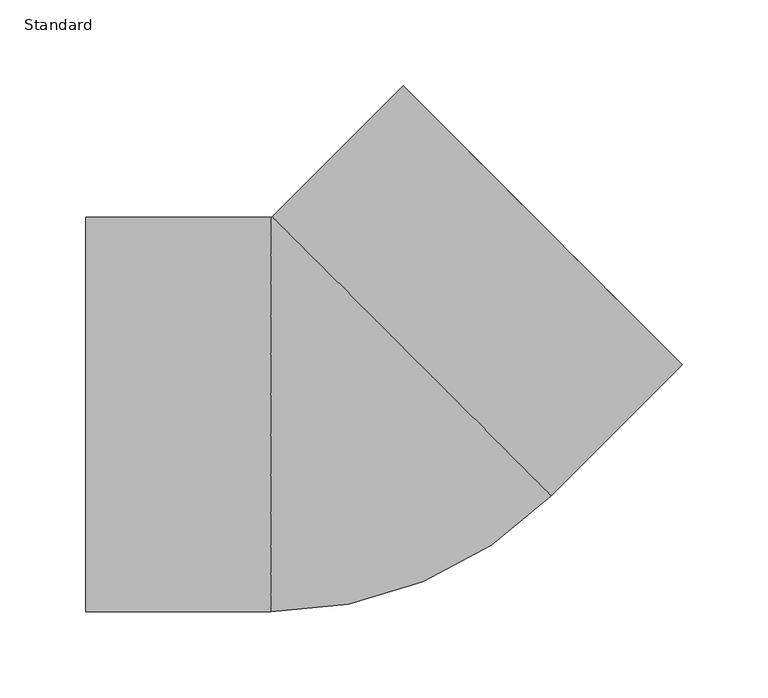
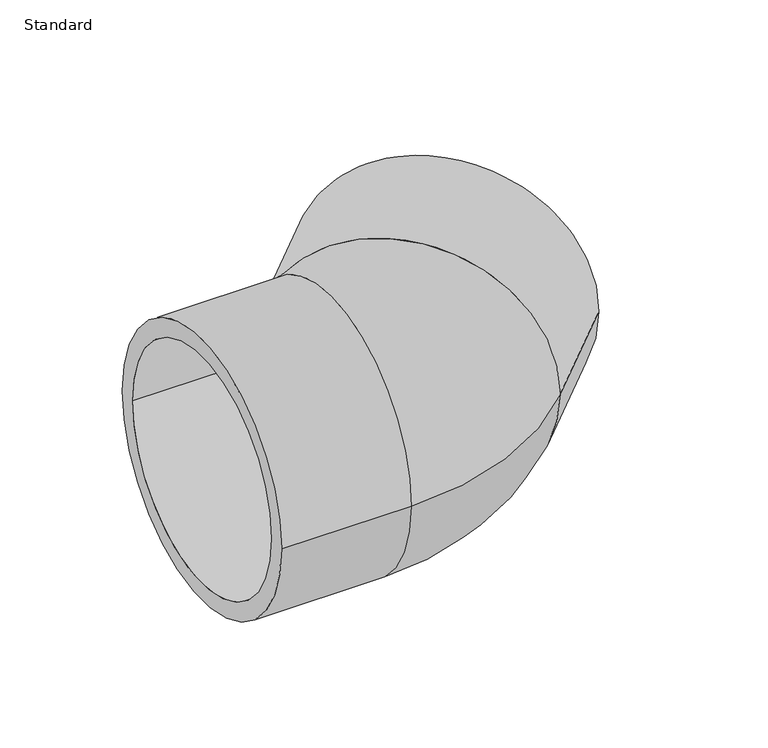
"""IFC4 building model written with IfcOpenShell, lengths in millimetres: pipe fitting geometry, Durapipe_PipeFitting_PVC_Elbow45deg : Standard."""

import ifcopenshell
import ifcopenshell.guid

model = None  # the IFC model being written
_history = None  # IfcOwnerHistory: only IFC2X3 demands one
_inside = {}  # id of a spatial element -> (the spatial element, [elements in it])
_under = {}  # id of a project, library or spatial element -> (it, [spatial elements below it])
_declared = {}  # id of a project -> (the project, [libraries it declares])
_typed = {}  # id of a type object -> (the type object, [elements of that type])
_made_of = {}  # id of a material, layer set ... -> (it, [elements and type objects made of it])


def new_model(schema):
    """Start an empty IFC model of exactly this schema.

    Asked for "IFC4X3", IfcOpenShell would pick the latest addendum, in which some entities
    have other attributes; the version numbers below select the first issue.
    IFC2X3 requires an IfcOwnerHistory on every rooted entity: one is made here for all.
    """
    global model, _history
    if schema == "IFC4X3":
        model = ifcopenshell.file(schema_version=(4, 3, 0, 0))
    else:
        model = ifcopenshell.file(schema=schema)
    _inside.clear()
    _under.clear()
    _declared.clear()
    _typed.clear()
    _made_of.clear()
    _history = None
    if model.schema == "IFC2X3":
        org = make("IfcOrganization", Name="unknown")
        user = make(
            "IfcPersonAndOrganization",
            ThePerson=make("IfcPerson", FamilyName="unknown"),
            TheOrganization=org,
        )
        app = make(
            "IfcApplication",
            ApplicationDeveloper=org,
            Version="unknown",
            ApplicationFullName="unknown",
            ApplicationIdentifier="unknown",
        )
        _history = make(
            "IfcOwnerHistory",
            OwningUser=user,
            OwningApplication=app,
            ChangeAction="ADDED",
            CreationDate=0,
        )
    return model


def make(cls, **values):
    """One entity of the class cls with the attributes given. An attribute that is None is left unset."""
    return model.create_entity(
        cls, **{name: value for name, value in values.items() if value is not None}
    )


def rooted(cls, **values):
    """An entity with a GlobalId (a new one), such as an element, a storey or a relation."""
    return make(cls, GlobalId=ifcopenshell.guid.new(), OwnerHistory=_history, **values)


def si_unit(unit_type, name, prefix=None):
    """IfcSIUnit, for example si_unit("LENGTHUNIT", "METRE", prefix="MILLI")."""
    return make("IfcSIUnit", UnitType=unit_type, Prefix=prefix, Name=name)


def assignment(units):
    """IfcUnitAssignment: the units of a project."""
    return None if units is None else make("IfcUnitAssignment", Units=units)


def point(xyz):
    """IfcCartesianPoint."""
    return None if xyz is None else make("IfcCartesianPoint", Coordinates=xyz)


def direction(xyz):
    """IfcDirection."""
    return None if xyz is None else make("IfcDirection", DirectionRatios=xyz)


def frame(location, z_axis=None, x_axis=None):
    """IfcAxis2Placement3D, a coordinate frame: its origin and axes. An axis left out is left unset."""
    return make(
        "IfcAxis2Placement3D",
        Location=point(location),
        Axis=direction(z_axis),
        RefDirection=direction(x_axis),
    )


def origin():
    """The frame at (0, 0, 0) with its axes left unset."""
    return frame((0.0, 0.0, 0.0))


def place(relative_to, where):
    """IfcLocalPlacement: puts the frame where relative to a parent placement (None: the world)."""
    return make(
        "IfcLocalPlacement", PlacementRelTo=relative_to, RelativePlacement=where
    )


def context(
    kind, dimensions, precision=None, world=None, true_north=None, identifier=None
):
    """IfcGeometricRepresentationContext, for example the 3D "Model" context."""
    return make(
        "IfcGeometricRepresentationContext",
        ContextIdentifier=identifier,
        ContextType=kind,
        CoordinateSpaceDimension=dimensions,
        Precision=precision,
        WorldCoordinateSystem=world,
        TrueNorth=true_north,
    )


def project(units=None, contexts=None):
    """IfcProject with its units and contexts."""
    return rooted(
        "IfcProject",
        Name="project",
        RepresentationContexts=contexts,
        UnitsInContext=assignment(units),
    )


def spatial(cls, under=None, at=None, **own):
    """A site, building, storey or space (cls), placed at a placement, below another one or the project."""
    s = rooted(cls, ObjectPlacement=at, **own)
    if under is not None:
        _under.setdefault(under.id(), (under, []))[1].append(s)
    return s


def polyline(points):
    """IfcPolyline through the points."""
    return make("IfcPolyline", Points=[point(p) for p in points])


def circle_curve(where, radius):
    """IfcCircle in the frame where."""
    return make("IfcCircle", Position=where, Radius=radius)


def ellipse_curve(where, semi_axis1, semi_axis2):
    """IfcEllipse in the frame where."""
    return make(
        "IfcEllipse", Position=where, SemiAxis1=semi_axis1, SemiAxis2=semi_axis2
    )


def trimmed(basis, trim1, trim2, sense, master):
    """IfcTrimmedCurve: the piece of a basis curve between two trims."""
    return make(
        "IfcTrimmedCurve",
        BasisCurve=basis,
        Trim1=trim1,
        Trim2=trim2,
        SenseAgreement=sense,
        MasterRepresentation=master,
    )


def shape(context_of_items, identifier, shape_type, items):
    """IfcShapeRepresentation: the items that make up one representation, for example the "Body"."""
    return make(
        "IfcShapeRepresentation",
        ContextOfItems=context_of_items,
        RepresentationIdentifier=identifier,
        RepresentationType=shape_type,
        Items=items,
    )


def source(mapping_origin, context_of_items, identifier, shape_type, items):
    """IfcRepresentationMap: a shape defined once, which mapped items show again and again."""
    return make(
        "IfcRepresentationMap",
        MappingOrigin=mapping_origin,
        MappedRepresentation=shape(context_of_items, identifier, shape_type, items),
    )


def transform(
    local_origin,
    x_axis=None,
    y_axis=None,
    z_axis=None,
    scale=None,
    scale2=None,
    scale3=None,
    uniform=True,
):
    """IfcCartesianTransformationOperator3D, or its non-uniform kind. x_axis, y_axis, z_axis: its Axis1, 2, 3."""
    if uniform:
        return make(
            "IfcCartesianTransformationOperator3D",
            Axis1=direction(x_axis),
            Axis2=direction(y_axis),
            LocalOrigin=point(local_origin),
            Scale=scale,
            Axis3=direction(z_axis),
        )
    return make(
        "IfcCartesianTransformationOperator3DnonUniform",
        Axis1=direction(x_axis),
        Axis2=direction(y_axis),
        LocalOrigin=point(local_origin),
        Scale=scale,
        Axis3=direction(z_axis),
        Scale2=scale2,
        Scale3=scale3,
    )


def mapped(mapping_source, mapping_target):
    """IfcMappedItem: shows the shape of a source again, moved by a transform."""
    return make(
        "IfcMappedItem", MappingSource=mapping_source, MappingTarget=mapping_target
    )


def made_of(thing, what):
    """Note that an element or type object is made of a material, layer set ...; save() writes the relation."""
    if what is not None:
        _made_of.setdefault(what.id(), (what, []))[1].append(thing)
    return thing


def element(
    cls,
    number,
    at=None,
    inside=None,
    cuts=None,
    type_object=None,
    material=None,
    context=None,
    identifier="Body",
    shape_type=None,
    held_by="IfcProductDefinitionShape",
    body=None,
    shapes=None,
    **own,
):
    """One element of the class cls, such as IfcWall. Its Tag is "e" and its number.

    at: its placement. inside: the storey or other place that contains it. cuts: it is an
    opening in that element (IfcRelVoidsElement). A single representation is given by context,
    identifier, shape_type and body (its items); several are given by shapes. held_by: the class
    of the entity that holds the representations. save() writes the other relations.
    """
    e = rooted(cls, Tag="e%d" % number, ObjectPlacement=at, **own)
    if body is not None:
        shapes = [shape(context, identifier, shape_type, body)]
    if shapes is not None:
        e.Representation = make(held_by, Representations=shapes)
    if inside is not None:
        _inside.setdefault(inside.id(), (inside, []))[1].append(e)
    if cuts is not None:
        rooted(
            "IfcRelVoidsElement", RelatingBuildingElement=cuts, RelatedOpeningElement=e
        )
    if type_object is not None:
        _typed.setdefault(type_object.id(), (type_object, []))[1].append(e)
    return made_of(e, material)


def aggregate(whole, parts):
    """IfcRelAggregates: a whole, such as a stair, and the parts it consists of."""
    return rooted("IfcRelAggregates", RelatingObject=whole, RelatedObjects=parts)


def save(model, path):
    """Write the relations noted so far, then the file.

    IfcRelAggregates (storeys below a building ...), IfcRelContainedInSpatialStructure (elements
    in a storey), IfcRelDefinesByType, IfcRelAssociatesMaterial and IfcRelDeclares: one each for
    every whole, place, type object, material and project.
    """
    for whole, parts in _under.values():
        aggregate(whole, parts)
    for where, things in _inside.values():
        rooted(
            "IfcRelContainedInSpatialStructure",
            RelatedElements=things,
            RelatingStructure=where,
        )
    for kind, things in _typed.values():
        rooted("IfcRelDefinesByType", RelatedObjects=things, RelatingType=kind)
    for what, things in _made_of.values():
        rooted("IfcRelAssociatesMaterial", RelatedObjects=things, RelatingMaterial=what)
    for by, libraries in _declared.values():
        rooted("IfcRelDeclares", RelatingContext=by, RelatedDefinitions=libraries)
    model.write(path)


def plane_surface(at):
    """IfcPlane: the flat surface through the origin of the frame at, square to its z axis."""
    return make("IfcPlane", Position=at)


def cylinder_surface(at, radius):
    """IfcCylindricalSurface: all points at the distance radius from the z axis of the frame at."""
    return make("IfcCylindricalSurface", Position=at, Radius=radius)


def revolved_surface(curve, axis_point, axis_direction):
    """IfcSurfaceOfRevolution: the curve turned about the line through axis_point along axis_direction."""
    return make(
        "IfcSurfaceOfRevolution",
        SweptCurve=make("IfcArbitraryOpenProfileDef", ProfileType="CURVE", Curve=curve),
        AxisPosition=make("IfcAxis1Placement", Location=point(axis_point), Axis=direction(axis_direction)),
    )


def advanced_brep(points, edges, surfaces, faces):
    """IfcAdvancedBrep: a solid bounded by faces that lie on surfaces and meet in shared edges.

    An edge is (start, end): straight between two places in points (the first is 0);
    or (start, end, curve); or (start, end, curve, False) where it runs against its curve.
    A face is (place in surfaces, loops), or (place, loops, False) where it looks against
    its surface's normal. A loop lists edges by number (the first is 1), with a minus sign
    where the edge is run from its end to its start. The first loop is the outer one.
    """
    corners = [point(p) for p in points]
    vertices = [make("IfcVertexPoint", VertexGeometry=c) for c in corners]
    made = []
    for start, end, *more in edges:
        made.append(
            make(
                "IfcEdgeCurve",
                EdgeStart=vertices[start],
                EdgeEnd=vertices[end],
                EdgeGeometry=more[0] if more else make("IfcPolyline", Points=[corners[start], corners[end]]),
                SameSense=more[1] if len(more) > 1 else True,
            )
        )
    hull = []
    for where, loops, *sense in faces:
        bounds = []
        for j, loop in enumerate(loops):
            ring = [make("IfcOrientedEdge", EdgeElement=made[abs(k) - 1], Orientation=k > 0) for k in loop]
            bounds.append(
                make(
                    "IfcFaceOuterBound" if j == 0 else "IfcFaceBound",
                    Bound=make("IfcEdgeLoop", EdgeList=ring),
                    Orientation=True,
                )
            )
        hull.append(make("IfcAdvancedFace", Bounds=bounds, FaceSurface=surfaces[where], SameSense=sense[0] if sense else True))
    return make("IfcAdvancedBrep", Outer=make("IfcClosedShell", CfsFaces=hull))


def standard_528f4212(model_context):
    return source(origin(), model_context, "Body", "AdvancedBrep", [
        advanced_brep(
        [(-156.0, -115.0, 0.0), (-156.0, 115.0, 0.0), (-156.0, -100.0, 0.0), (-156.0, 100.0, 0.0), (-48.1345597, -115.0, 0.0), (-48.1345597, 115.0, 0.0), (115.3535534, -47.2810063, 0.0), (-47.2810063, 115.3535534, 0.0), (191.6259377, 28.991378, 0.0), (28.991378, 191.6259377, 0.0), (39.5979797, 181.019336, 0.0), (181.019336, 39.5979797, 0.0), (-48.0, 100.0, 0.0), (-48.0, -100.0, 0.0), (-48.0, 0.0, 0.0), (-36.7695526, 104.6518036, 0.0), (33.9411255, 33.9411255, 0.0), (104.6518036, -36.7695526, 0.0)],
        [
            (0, 1, circle_curve(frame((-156.0, 0.0, 0.0), z_axis=(-1.0, 0.0, 0.0), x_axis=(0.0, 1.0, 0.0)), 115.0)),
            (1, 0, circle_curve(frame((-156.0, 0.0, 0.0), z_axis=(-1.0, 0.0, 0.0), x_axis=(0.0, 1.0, 0.0)), 115.0)),
            (2, 3, circle_curve(frame((-156.0, 0.0, 0.0), z_axis=(1.0, 0.0, 0.0), x_axis=(0.0, -1.0, 0.0)), 100.0)),
            (3, 2, circle_curve(frame((-156.0, 0.0, 0.0), z_axis=(1.0, 0.0, 0.0), x_axis=(0.0, -1.0, 0.0)), 100.0)),
            (0, 4),
            (4, 5, circle_curve(frame((-48.1345597, 0.0, 0.0), z_axis=(-1.0, 0.0, 0.0), x_axis=(0.0, 1.0, 0.0)), 115.0)),
            (5, 1),
            (5, 4, circle_curve(frame((-48.1345597, 0.0, 0.0), z_axis=(-1.0, 0.0, 0.0), x_axis=(0.0, 1.0, 0.0)), 115.0)),
            (4, 6, circle_curve(frame((-48.1345597, 116.2071068, 0.0), z_axis=(0.0, 0.0, 1.0), x_axis=(0.0, -1.0, 0.0)), 231.2071068)),
            (6, 7, circle_curve(frame((34.0362736, 34.0362736, 0.0), z_axis=(-0.7071067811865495, -0.7071067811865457, 0.0), x_axis=(-0.7071067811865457, 0.7071067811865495, 0.0)), 115.0)),
            (7, 5, circle_curve(frame((-48.1345597, 116.2071068, 0.0), z_axis=(0.0, 0.0, -1.0), x_axis=(0.0, -1.0, 0.0)), 1.2071068)),
            (7, 6, circle_curve(frame((34.0362736, 34.0362736, 0.0), z_axis=(-0.7071067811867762, -0.7071067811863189, 0.0), x_axis=(-0.7071067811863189, 0.7071067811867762, 0.0)), 115.0)),
            (8, 9, circle_curve(frame((110.3086579, 110.3086579, 0.0), z_axis=(0.7071067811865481, 0.707106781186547, 0.0), x_axis=(-0.707106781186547, 0.7071067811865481, 0.0)), 115.0)),
            (9, 8, circle_curve(frame((110.3086579, 110.3086579, 0.0), z_axis=(0.7071067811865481, 0.707106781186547, 0.0), x_axis=(-0.707106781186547, 0.7071067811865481, 0.0)), 115.0)),
            (10, 11, circle_curve(frame((110.3086579, 110.3086579, 0.0), z_axis=(-0.7071067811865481, -0.707106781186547, 0.0), x_axis=(0.7071067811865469, -0.707106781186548, 0.0)), 100.0)),
            (11, 10, circle_curve(frame((110.3086579, 110.3086579, 0.0), z_axis=(-0.7071067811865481, -0.707106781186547, 0.0), x_axis=(0.7071067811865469, -0.707106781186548, 0.0)), 100.0)),
            (6, 8),
            (9, 7),
            (12, 3),
            (2, 13),
            (13, 12, circle_curve(frame((-48.0, 0.0, 0.0), z_axis=(1.0, 0.0, 0.0), x_axis=(0.0, -1.0, 0.0)), 100.0)),
            (12, 13, circle_curve(frame((-48.0, 0.0, 0.0), z_axis=(1.0, 0.0, 0.0), x_axis=(0.0, -1.0, 0.0)), 100.0)),
            (13, 14),
            (14, 12),
            (15, 16),
            (16, 17),
            (17, 15, circle_curve(frame((33.9411255, 33.9411255, 0.0), z_axis=(0.7071067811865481, 0.707106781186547, 0.0), x_axis=(0.7071067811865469, -0.707106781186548, 0.0)), 100.0)),
            (15, 17, circle_curve(frame((33.9411255, 33.9411255, 0.0), z_axis=(0.7071067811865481, 0.707106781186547, 0.0), x_axis=(0.7071067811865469, -0.707106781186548, 0.0)), 100.0)),
            (17, 11),
            (10, 15),
        ],
        [
            plane_surface(frame((-156.0, 0.0, 0.0), z_axis=(-1.0, 0.0, 0.0), x_axis=(0.0, 0.0, 1.0))),
            cylinder_surface(frame((-156.0, 0.0, 0.0), z_axis=(-1.0, 0.0, 0.0), x_axis=(0.0, 1.0, 0.0)), 115.0),
            revolved_surface(trimmed(ellipse_curve(frame((-48.1345597, 0.0, 0.0), z_axis=(-1.0, 0.0, 0.0), x_axis=(0.0, 1.0, 0.0)), 115.0, 115.0), [point((-48.1345597, -115.0, 0.0))], [point((-48.1345597, 115.0, 0.0))], True, "CARTESIAN"), (-48.1345597, 116.2071068, 0.0), (0.0, 0.0, 1.0)),
            revolved_surface(trimmed(ellipse_curve(frame((-48.1345597, 0.0, 0.0), z_axis=(-1.0, 0.0, 0.0), x_axis=(0.0, 1.0, 0.0)), 115.0, 115.0), [point((-48.1345597, 115.0, 0.0))], [point((-48.1345597, -115.0, 0.0))], True, "CARTESIAN"), (-48.1345597, 116.2071068, 0.0), (0.0, 0.0, 1.0)),
            plane_surface(frame((110.3086579, 110.3086579, 0.0), z_axis=(0.7071067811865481, 0.707106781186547, 0.0), x_axis=(0.0, 0.0, 1.0))),
            cylinder_surface(frame((34.0362736, 34.0362736, 0.0), z_axis=(-0.7071067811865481, -0.707106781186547, 0.0), x_axis=(-0.707106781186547, 0.7071067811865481, 0.0)), 115.0),
            revolved_surface(polyline([(-48.0, -100.0, 0.0), (-156.0, -100.0, 0.0)]), (2000.0, 0.0, 0.0), (1.0, 0.0, 0.0)),
            plane_surface(frame((-48.0, 0.0, 0.0), z_axis=(-1.0, 0.0, 0.0), x_axis=(0.0, -1.0, 0.0))),
            plane_surface(frame((33.9411255, 33.9411255, 0.0), z_axis=(0.7071067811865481, 0.707106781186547, 0.0), x_axis=(0.707106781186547, -0.7071067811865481, 0.0))),
            revolved_surface(polyline([(181.01933601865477, 39.5979797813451, 0.0), (104.65180361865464, -36.76955261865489, 0.0)]), (0.0, 0.0, 0.0), (0.707106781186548, 0.7071067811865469, 0.0)),
        ],
        [
            (0, [[1, 2], [3, 4]]),
            (1, [[-1, 5, 6, 7]]),
            (1, [[-2, -7, 8, -5]]),
            (2, [[-6, 9, 10, 11]]),
            (3, [[-8, -11, 12, -9]]),
            (4, [[13, 14], [15, 16]]),
            (5, [[-10, 17, -14, 18]]),
            (5, [[-12, -18, -13, -17]]),
            (6, [[19, -3, 20, 21]]),
            (6, [[-19, 22, -20, -4]]),
            (7, [[-21, 23, 24]]),
            (7, [[-22, -24, -23]]),
            (8, [[25, 26, 27]]),
            (8, [[-25, 28, -26]]),
            (9, [[-27, 29, -15, 30]]),
            (9, [[-28, -30, -16, -29]]),
        ],
    ),
    ])


if __name__ == "__main__":
    model = new_model("IFC4")
    model_context = context("Model", 3, world=origin())
    ifc_project = project(units=[si_unit("LENGTHUNIT", "METRE", prefix="MILLI")], contexts=[model_context])
    site = spatial("IfcSite", under=ifc_project)
    building = spatial("IfcBuilding", under=site)
    placement = place(None, origin())
    standard_shape = standard_528f4212(model_context)
    element("IfcPipeFitting", 1, ObjectType="Durapipe_PipeFitting_PVC_Elbow45deg : Standard", at=placement, inside=building, context=model_context, shape_type="MappedRepresentation", body=[
        mapped(standard_shape, transform((0.0, 0.0, 0.0), x_axis=(1.0, 0.0, 0.0), y_axis=(0.0, 1.0, 0.0), z_axis=(0.0, 0.0, 1.0))),
    ])
    save(model, "model.ifc")
